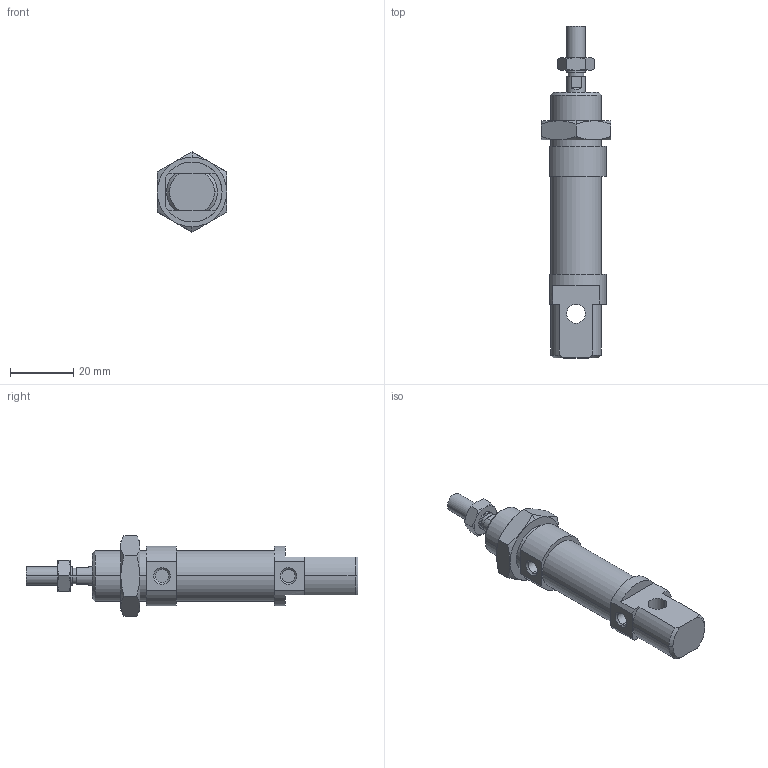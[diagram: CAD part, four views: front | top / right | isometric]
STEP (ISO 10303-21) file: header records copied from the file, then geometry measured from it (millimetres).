
FILE_DESCRIPTION((''),'2;1');
FILE_NAME('I:\DOC-EDP\Lib-3d\1200\CILINDRI\1260\1260_12_0000.stp','2003-04-02T14:56:59',('maffial1'),(''),'Autodesk Inventor (R) 6.0','Autodesk Inventor (R) 6.0','');
FILE_SCHEMA(('AUTOMOTIVE_DESIGN { 1 0 10303 214 1 1 1 1 }'));
Length unit declared in the file: millimetre
Products named in the file (5): 1260_12_0000; S1260_12_0; 1200_12_05; 1200_12_06; C1260_12_0
Assembly tree (4 placements, depth 2):
  1260_12_0000
    S1260_12_0
    1200_12_05
    1200_12_06
    C1260_12_0
Bounding box: 22 x 105 x 25.4 mm (x, y, z)
Volume: 19173.8 mm3; surface area: 8227.7 mm2
Topology: 4 solids, 4 shells, 121 faces, 268 edges, 162 vertices
Faces by surface type: cone 40, plane 39, cylinder 22, bspline 20
Entity records: 3653 total; most frequent: CARTESIAN_POINT 976, DIRECTION 556, ORIENTED_EDGE 536, EDGE_CURVE 268, AXIS2_PLACEMENT_3D 230, VERTEX_POINT 162, EDGE_LOOP 134, FACE_OUTER_BOUND 121
